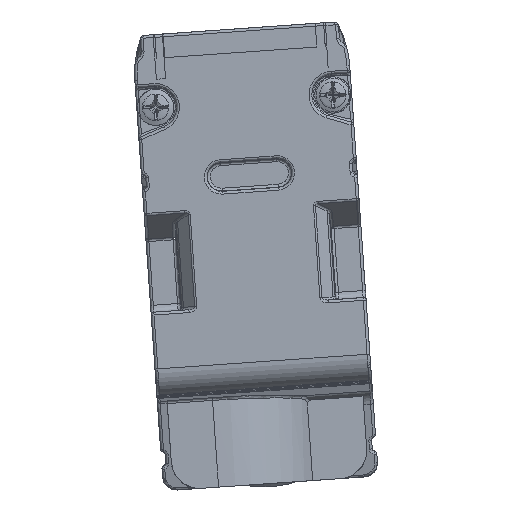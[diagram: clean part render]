
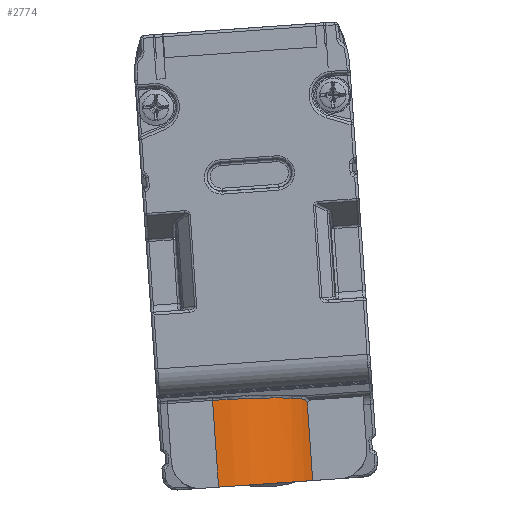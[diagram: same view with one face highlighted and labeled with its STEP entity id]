
A CAD part, front view. The second image highlights one B-rep face of the part: STEP entity #2774.
In plain terms, the highlighted cylindrical face has radius 7.5 mm (diameter 15 mm), a partial arc.
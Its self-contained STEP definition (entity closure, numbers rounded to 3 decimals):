
#1381=CYLINDRICAL_SURFACE('',#24822,7.5);
#1752=B_SPLINE_CURVE_WITH_KNOTS('',3,(#46254,#46255,#46256,#46257,#46258,
#46259,#46260),.UNSPECIFIED.,.F.,.F.,(4,3,4),(0.,0.485,1.),.UNSPECIFIED.);
#2774=ADVANCED_FACE('',(#4134),#1381,.T.);
#4134=FACE_OUTER_BOUND('',#5298,.T.);
#5298=EDGE_LOOP('',(#12497,#12498,#12499,#12500,#12501));
#6770=CIRCLE('',#24821,7.5);
#6959=ELLIPSE('',#24820,7.53,7.5);
#12497=ORIENTED_EDGE('',*,*,#18805,.T.);
#12498=ORIENTED_EDGE('',*,*,#18806,.T.);
#12499=ORIENTED_EDGE('',*,*,#18807,.T.);
#12500=ORIENTED_EDGE('',*,*,#18808,.T.);
#12501=ORIENTED_EDGE('',*,*,#18809,.F.);
#15263=VERTEX_POINT('',#46252);
#15264=VERTEX_POINT('',#46253);
#15265=VERTEX_POINT('',#46261);
#15266=VERTEX_POINT('',#46263);
#15267=VERTEX_POINT('',#46265);
#18805=EDGE_CURVE('',#15263,#15264,#20590,.T.);
#18806=EDGE_CURVE('',#15264,#15265,#1752,.T.);
#18807=EDGE_CURVE('',#15265,#15266,#6959,.T.);
#18808=EDGE_CURVE('',#15266,#15267,#20591,.T.);
#18809=EDGE_CURVE('',#15263,#15267,#6770,.T.);
#20590=LINE('',#46251,#22264);
#20591=LINE('',#46264,#22265);
#22264=VECTOR('',#31306,1.);
#22265=VECTOR('',#31309,1.);
#24820=AXIS2_PLACEMENT_3D('',#46262,#31307,#31308);
#24821=AXIS2_PLACEMENT_3D('',#46266,#31310,#31311);
#24822=AXIS2_PLACEMENT_3D('',#46267,#31312,#31313);
#31306=DIRECTION('',(-0.07,0.,0.998));
#31307=DIRECTION('',(0.069,-0.089,-0.994));
#31308=DIRECTION('',(0.006,0.996,-0.089));
#31309=DIRECTION('',(0.07,0.,-0.998));
#31310=DIRECTION('',(0.07,0.,-0.998));
#31311=DIRECTION('',(0.998,0.,0.07));
#31312=DIRECTION('',(0.07,0.,-0.998));
#31313=DIRECTION('',(0.,-1.,0.));
#46251=CARTESIAN_POINT('',(-40.701,-470.597,14.888));
#46252=CARTESIAN_POINT('',(-40.701,-470.597,14.888));
#46253=CARTESIAN_POINT('',(-41.088,-470.597,20.435));
#46254=CARTESIAN_POINT('',(-41.088,-470.597,20.435));
#46255=CARTESIAN_POINT('',(-41.139,-470.686,20.528));
#46256=CARTESIAN_POINT('',(-41.198,-470.793,20.603));
#46257=CARTESIAN_POINT('',(-41.263,-470.905,20.654));
#46258=CARTESIAN_POINT('',(-41.332,-471.024,20.708));
#46259=CARTESIAN_POINT('',(-41.408,-471.152,20.738));
#46260=CARTESIAN_POINT('',(-41.487,-471.278,20.743));
#46261=CARTESIAN_POINT('',(-41.487,-471.278,20.743));
#46262=CARTESIAN_POINT('',(-47.816,-467.318,19.944));
#46263=CARTESIAN_POINT('',(-47.863,-474.818,20.616));
#46264=CARTESIAN_POINT('',(-47.667,-474.818,17.815));
#46265=CARTESIAN_POINT('',(-47.43,-474.818,14.418));
#46266=CARTESIAN_POINT('',(-47.43,-467.318,14.418));
#46267=CARTESIAN_POINT('',(-52.434,-467.318,85.982));
